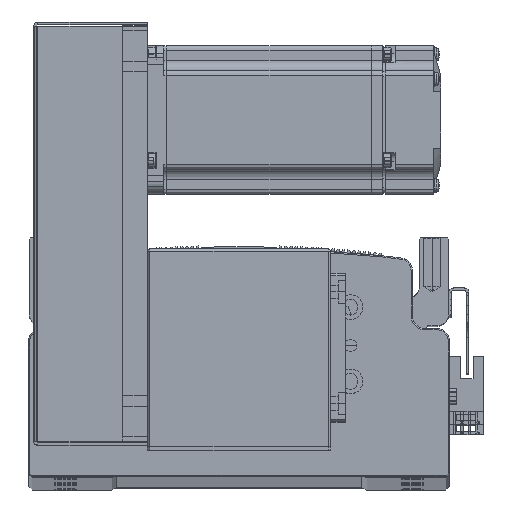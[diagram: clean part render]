
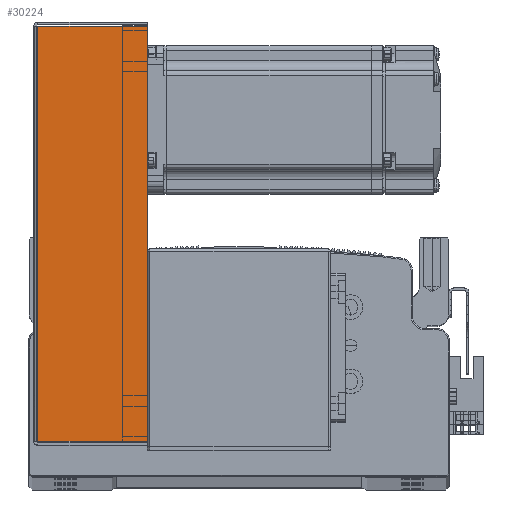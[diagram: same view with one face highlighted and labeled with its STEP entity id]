
A CAD part, top view. The second image highlights one B-rep face of the part: STEP entity #30224.
In plain terms, the highlighted planar face has unit normal (0, 0, 1) as drawn and (0, 0, -1) by its records, which use the part's own axes.
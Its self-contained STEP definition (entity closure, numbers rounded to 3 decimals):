
#11985 = CARTESIAN_POINT ( 'NONE',  ( 83.793, 45., -40.5 ) ) ;
#12033 = CARTESIAN_POINT ( 'NONE',  ( 83.793, 0.737, -40.5 ) ) ;
#12071 = CARTESIAN_POINT ( 'NONE',  ( -83.793, 0.737, -40.5 ) ) ;
#12096 = CARTESIAN_POINT ( 'NONE',  ( -83.793, 45., -40.5 ) ) ;
#13823 = ORIENTED_EDGE ( 'NONE', *, *, #83152, .F. ) ;
#13849 = ORIENTED_EDGE ( 'NONE', *, *, #83111, .T. ) ;
#13853 = ORIENTED_EDGE ( 'NONE', *, *, #83091, .F. ) ;
#13858 = ORIENTED_EDGE ( 'NONE', *, *, #83352, .T. ) ;
#14477 = VERTEX_POINT ( 'NONE', #12033 ) ;
#14478 = VERTEX_POINT ( 'NONE', #11985 ) ;
#14502 = VERTEX_POINT ( 'NONE', #12071 ) ;
#14507 = VERTEX_POINT ( 'NONE', #12096 ) ;
#16514 = DIRECTION ( 'NONE',  ( 1., 0., 0. ) ) ;
#16524 = CARTESIAN_POINT ( 'NONE',  ( 84.5, 45., -40.5 ) ) ;
#18914 = CARTESIAN_POINT ( 'NONE',  ( 0., 0., -40.5 ) ) ;
#18938 = PLANE ( 'NONE',  #82587 ) ;
#18944 = DIRECTION ( 'NONE',  ( 0., 0., 1. ) ) ;
#18954 = DIRECTION ( 'NONE',  ( 0., -1., 0. ) ) ;
#21939 = CARTESIAN_POINT ( 'NONE',  ( 83.793, 0., -40.5 ) ) ;
#21943 = DIRECTION ( 'NONE',  ( 0., 1., 0. ) ) ;
#21969 = CARTESIAN_POINT ( 'NONE',  ( 0., 0.737, -40.5 ) ) ;
#21971 = DIRECTION ( 'NONE',  ( 1., 0., 0. ) ) ;
#21982 = DIRECTION ( 'NONE',  ( 0., 1., 0. ) ) ;
#21993 = CARTESIAN_POINT ( 'NONE',  ( -83.793, 0., -40.5 ) ) ;
#30224 = ADVANCED_FACE ( 'NONE', ( #76265 ), #18938, .F. ) ;
#31816 = LINE ( 'NONE', #21939, #31896 ) ;
#31846 = LINE ( 'NONE', #21993, #31915 ) ;
#31861 = VECTOR ( 'NONE', #21971, 1000. ) ;
#31896 = VECTOR ( 'NONE', #21943, 1000. ) ;
#31899 = LINE ( 'NONE', #21969, #31861 ) ;
#31915 = VECTOR ( 'NONE', #21982, 1000. ) ;
#32064 = LINE ( 'NONE', #16524, #32100 ) ;
#32100 = VECTOR ( 'NONE', #16514, 1000. ) ;
#76265 = FACE_OUTER_BOUND ( 'NONE', #89895, .T. ) ;
#82587 = AXIS2_PLACEMENT_3D ( 'NONE', #18914, #18944, #18954 ) ;
#83091 = EDGE_CURVE ( 'NONE', #14477, #14478, #31816, .T. ) ;
#83111 = EDGE_CURVE ( 'NONE', #14502, #14507, #31846, .T. ) ;
#83152 = EDGE_CURVE ( 'NONE', #14502, #14477, #31899, .T. ) ;
#83352 = EDGE_CURVE ( 'NONE', #14507, #14478, #32064, .T. ) ;
#89895 = EDGE_LOOP ( 'NONE', ( #13823, #13849, #13858, #13853 ) ) ;
